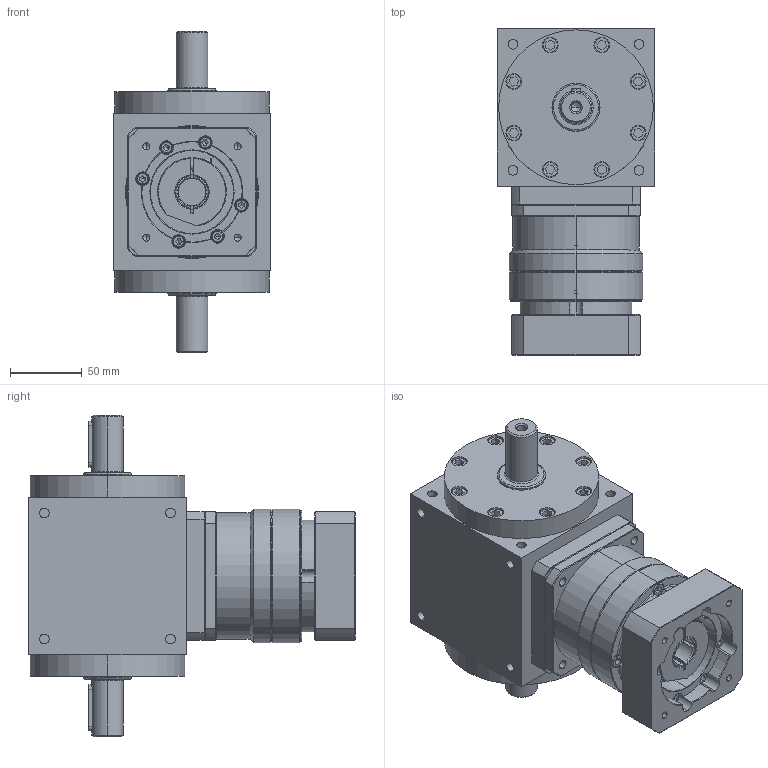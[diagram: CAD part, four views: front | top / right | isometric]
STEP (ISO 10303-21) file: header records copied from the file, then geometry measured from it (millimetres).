
FILE_DESCRIPTION (( 'STEP AP203' ), '1' );
FILE_NAME ('AT110-FL-L1 19-70-90-M6.STEP', '2024-12-20T06:41:00', ( '' ), ( '' ), 'SwSTEP 2.0', 'SolidWorks 2021', '' );
FILE_SCHEMA (( 'CONFIG_CONTROL_DESIGN' ));
Length unit declared in the file: millimetre
Products named in the file (3): AT110-FL; VRB-090-L1-S2-P1 19-70-90-M6; AT110-FL-L1 19-70-90-M6
Assembly tree (2 placements, depth 2):
  AT110-FL-L1 19-70-90-M6
    AT110-FL
    VRB-090-L1-S2-P1 19-70-90-M6
Bounding box: 110 x 228 x 224 mm (x, y, z)
Volume: 2358067 mm3; surface area: 241341.2 mm2
Topology: 32 solids, 32 shells, 1299 faces, 3162 edges, 1982 vertices
Faces by surface type: plane 549, cylinder 511, cone 193, torus 38, bspline 8
Entity records: 40501 total; most frequent: CARTESIAN_POINT 9579, DIRECTION 6697, ORIENTED_EDGE 6192, EDGE_CURVE 3096, AXIS2_PLACEMENT_3D 2601, VERTEX_POINT 1982, LINE 1495, VECTOR 1495
